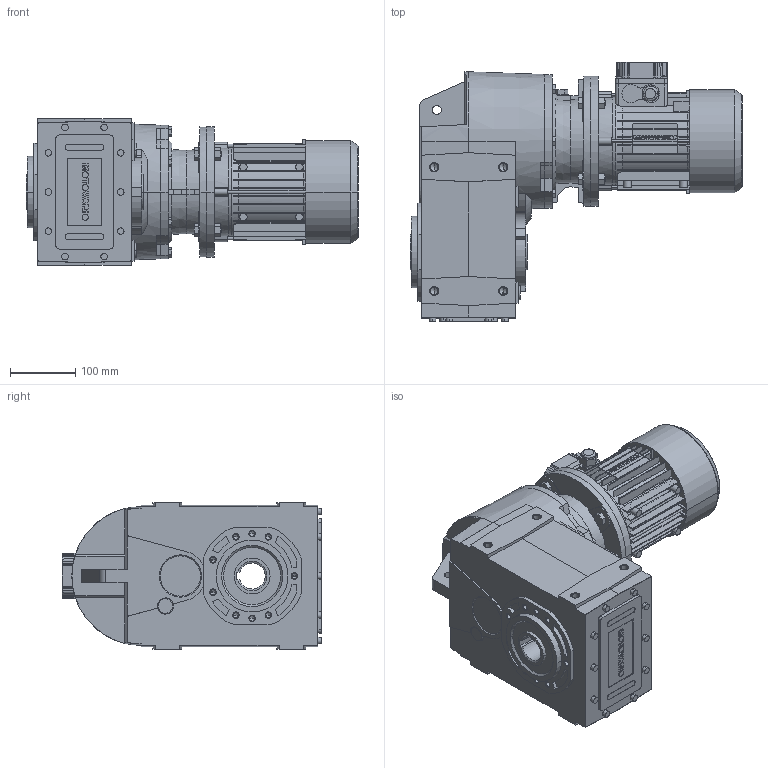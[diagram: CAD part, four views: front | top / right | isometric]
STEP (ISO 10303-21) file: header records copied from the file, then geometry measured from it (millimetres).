
FILE_DESCRIPTION( ( '' ), '1' );
FILE_NAME( '//expscmdclustefs.cadenas.external/client_exchange/iodir/jobs/output/wkb51874920_no0/STEP/S082C7_3480_B54000T0801_2_03.stp', '2012-12-03T05:52:12', ( '' ), ( '' ), ' ', ' ', ' ' );
FILE_SCHEMA( ( 'CONFIG_CONTROL_DESIGN' ) );
Length unit declared in the file: millimetre
Products named in the file (10): 1; 2; 3; 4; 5; 6; 7; 8; 9; 10
Bounding box: 509.5 x 398.5 x 225 mm (x, y, z)
Volume: 17708378.3 mm3; surface area: 1014427.1 mm2
Topology: 10 solids, 10 shells, 2378 faces, 6502 edges, 4276 vertices
Faces by surface type: plane 1276, cylinder 945, cone 144, torus 9, sphere 4
Entity records: 76828 total; most frequent: CARTESIAN_POINT 14640, DIRECTION 13270, ORIENTED_EDGE 12932, EDGE_CURVE 6466, AXIS2_PLACEMENT_3D 4640, VERTEX_POINT 4276, LINE 3990, VECTOR 3990
